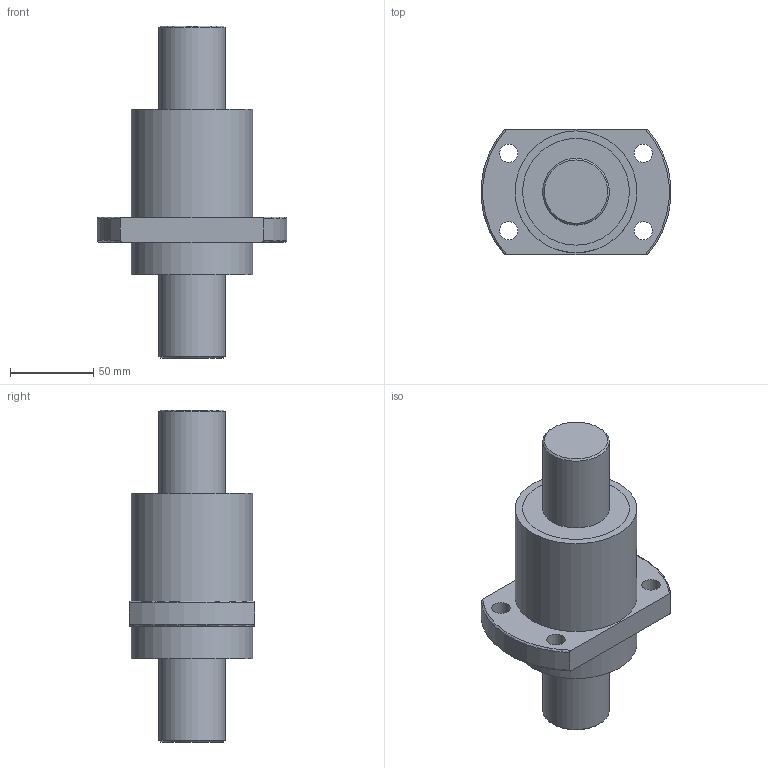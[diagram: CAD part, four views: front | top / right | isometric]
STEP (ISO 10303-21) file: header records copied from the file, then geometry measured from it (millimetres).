
FILE_DESCRIPTION(/* description */ (''),/* implementation_level */ '2;1');
FILE_NAME(/* name */ 'SFY4040.stp',/* time_stamp */ '2013-11-01T09:57:29+08:00',/* author */ (''),/* organization */ (''),/* preprocessor_version */ 'ST-DEVELOPER v11',/* originating_system */ 'SIEMENS UGS NX 6.0',/* authorisation */ '');
FILE_SCHEMA (('CONFIG_CONTROL_DESIGN'));
Length unit declared in the file: millimetre
Products named in the file (1): fann640Fk5o8
Bounding box: 113.64 x 75 x 199 mm (x, y, z)
Volume: 589619.2 mm3; surface area: 94102.9 mm2
Topology: 4 solids, 4 shells, 52 faces, 97 edges, 65 vertices
Faces by surface type: cylinder 24, plane 22, torus 4, cone 2
Full cylindrical faces by diameter (mm): 11 x4, 40 x4, 58 x4, 64 x4, 65.5 x4, 73 x2
Entity records: 1404 total; most frequent: CARTESIAN_POINT 318, DIRECTION 224, ORIENTED_EDGE 140, AXIS2_PLACEMENT_3D 108, EDGE_LOOP 102, FACE_BOUND 92, EDGE_CURVE 70, VERTEX_POINT 62
